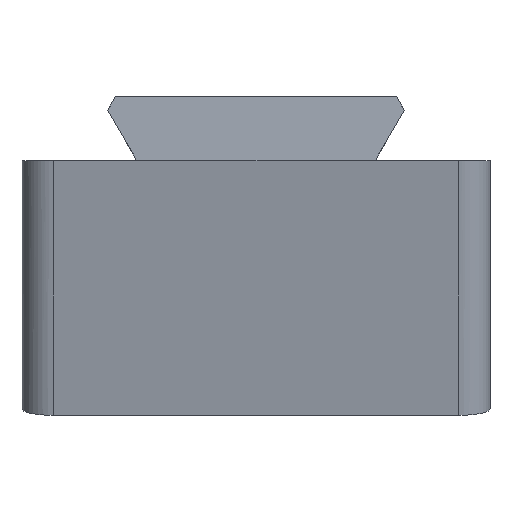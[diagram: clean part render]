
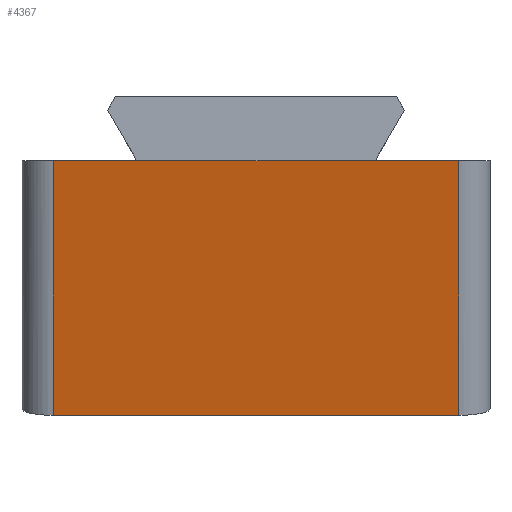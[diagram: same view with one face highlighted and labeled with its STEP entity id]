
A CAD part, left-side view. The second image highlights one B-rep face of the part: STEP entity #4367.
In plain terms, the highlighted planar face has unit normal (-0.978, 0, -0.208).
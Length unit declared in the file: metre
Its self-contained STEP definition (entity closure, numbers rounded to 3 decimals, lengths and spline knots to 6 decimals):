
#616=ORIENTED_EDGE('',*,*,#1716,.T.);
#617=ORIENTED_EDGE('',*,*,#1897,.T.);
#618=ORIENTED_EDGE('',*,*,#1646,.F.);
#619=ORIENTED_EDGE('',*,*,#1898,.T.);
#620=ORIENTED_EDGE('',*,*,#1728,.T.);
#621=ORIENTED_EDGE('',*,*,#1892,.T.);
#1646=EDGE_CURVE('',#2305,#2306,#2744,.T.);
#1716=EDGE_CURVE('',#2366,#2373,#2789,.T.);
#1728=EDGE_CURVE('',#2382,#2358,#2795,.T.);
#1892=EDGE_CURVE('',#2358,#2366,#2885,.T.);
#1897=EDGE_CURVE('',#2373,#2306,#2886,.T.);
#1898=EDGE_CURVE('',#2305,#2382,#2887,.F.);
#2305=VERTEX_POINT('',#6014);
#2306=VERTEX_POINT('',#6016);
#2358=VERTEX_POINT('',#6127);
#2366=VERTEX_POINT('',#6145);
#2373=VERTEX_POINT('',#6162);
#2382=VERTEX_POINT('',#6184);
#2744=LINE('',#6015,#3195);
#2789=LINE('',#6163,#3240);
#2795=LINE('',#6183,#3246);
#2885=LINE('',#6590,#3336);
#2886=LINE('',#6602,#3337);
#2887=LINE('',#6603,#3338);
#3195=VECTOR('',#4932,1.);
#3240=VECTOR('',#5047,1.);
#3246=VECTOR('',#5065,1.);
#3336=VECTOR('',#5235,1.);
#3337=VECTOR('',#5254,1.);
#3338=VECTOR('',#5255,1.);
#3687=EDGE_LOOP('',(#616,#617,#618,#619,#620,#621));
#3966=FACE_BOUND('',#3687,.T.);
#4218=PLANE('',#4695);
#4367=ADVANCED_FACE('',(#3966),#4218,.F.);
#4695=AXIS2_PLACEMENT_3D('',#6601,#5252,#5253);
#4932=DIRECTION('',(0.,1.,0.));
#5047=DIRECTION('',(0.,1.,0.));
#5065=DIRECTION('',(0.,1.,0.));
#5235=DIRECTION('',(0.,1.,0.));
#5252=DIRECTION('',(0.978,0.,0.208));
#5253=DIRECTION('',(0.208,0.,-0.978));
#5254=DIRECTION('',(0.208,0.,-0.978));
#5255=DIRECTION('',(0.208,0.,-0.978));
#6014=CARTESIAN_POINT('',(0.00347,-0.013,-0.016326));
#6015=CARTESIAN_POINT('',(0.00347,-0.015,-0.016326));
#6016=CARTESIAN_POINT('',(0.00347,0.013,-0.016326));
#6127=CARTESIAN_POINT('',(0.,-0.007695,0.));
#6145=CARTESIAN_POINT('',(0.,0.007695,0.));
#6162=CARTESIAN_POINT('',(0.,0.013,0.));
#6163=CARTESIAN_POINT('',(0.,-0.015,0.));
#6183=CARTESIAN_POINT('',(0.,-0.015,0.));
#6184=CARTESIAN_POINT('',(0.,-0.013,0.));
#6590=CARTESIAN_POINT('',(0.,0.,0.));
#6601=CARTESIAN_POINT('',(0.001735,-0.015,-0.008163));
#6602=CARTESIAN_POINT('',(0.001735,0.013,-0.008163));
#6603=CARTESIAN_POINT('',(0.,-0.013,0.));
